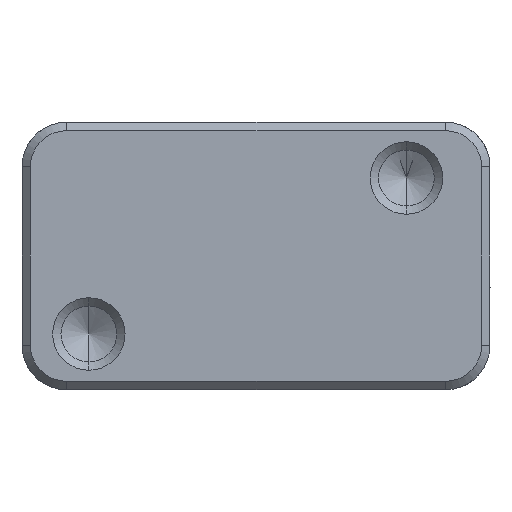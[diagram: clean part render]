
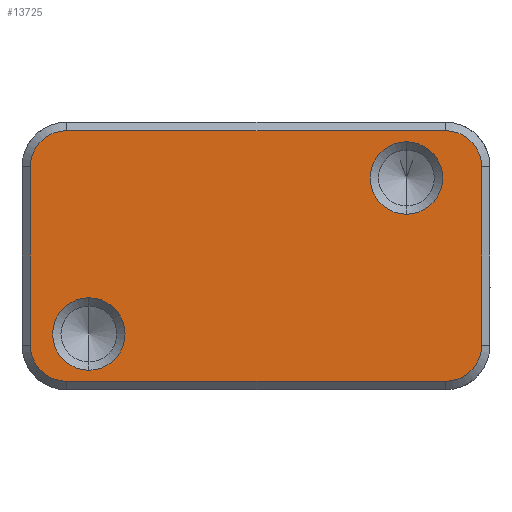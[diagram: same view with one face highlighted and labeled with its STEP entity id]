
A CAD part, front view. The second image highlights one B-rep face of the part: STEP entity #13725.
In plain terms, the highlighted planar face has unit normal (0, -1, 0).
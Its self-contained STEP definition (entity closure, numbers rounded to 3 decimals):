
#91 = ORIENTED_EDGE ( 'NONE', *, *, #1490, .T. ) ;
#145 = CARTESIAN_POINT ( 'NONE',  ( -20.25, 0., 7.995 ) ) ;
#285 = EDGE_LOOP ( 'NONE', ( #8774, #1440 ) ) ;
#322 = CARTESIAN_POINT ( 'NONE',  ( -17., 0., 11.245 ) ) ;
#598 = CARTESIAN_POINT ( 'NONE',  ( 20.25, 0., 7.995 ) ) ;
#716 = DIRECTION ( 'NONE',  ( 0., 1., 0. ) ) ;
#864 = DIRECTION ( 'NONE',  ( 0., 1., 0. ) ) ;
#897 = VERTEX_POINT ( 'NONE', #4951 ) ;
#1099 = CARTESIAN_POINT ( 'NONE',  ( 13.5, 0., 6.995 ) ) ;
#1104 = VERTEX_POINT ( 'NONE', #145 ) ;
#1356 = CIRCLE ( 'NONE', #6773, 3.25 ) ;
#1440 = ORIENTED_EDGE ( 'NONE', *, *, #2316, .T. ) ;
#1490 = EDGE_CURVE ( 'NONE', #6956, #1104, #11891, .T. ) ;
#1772 = LINE ( 'NONE', #2690, #12418 ) ;
#1795 = PLANE ( 'NONE',  #10368 ) ;
#1817 = DIRECTION ( 'NONE',  ( 0., 0., -1. ) ) ;
#1826 = AXIS2_PLACEMENT_3D ( 'NONE', #6650, #2471, #10027 ) ;
#1864 = CARTESIAN_POINT ( 'NONE',  ( 17., 0., -8.006 ) ) ;
#2037 = CARTESIAN_POINT ( 'NONE',  ( -17., 0., 7.995 ) ) ;
#2044 = LINE ( 'NONE', #6355, #10120 ) ;
#2055 = CIRCLE ( 'NONE', #1826, 3.25 ) ;
#2147 = ORIENTED_EDGE ( 'NONE', *, *, #5682, .T. ) ;
#2214 = VERTEX_POINT ( 'NONE', #10671 ) ;
#2316 = EDGE_CURVE ( 'NONE', #897, #4032, #2055, .T. ) ;
#2471 = DIRECTION ( 'NONE',  ( 0., 1., 0. ) ) ;
#2690 = CARTESIAN_POINT ( 'NONE',  ( 20.25, 0., -12.006 ) ) ;
#2780 = DIRECTION ( 'NONE',  ( 0., -1., 0. ) ) ;
#2889 = CIRCLE ( 'NONE', #12136, 3.25 ) ;
#2962 = CIRCLE ( 'NONE', #3425, 3.25 ) ;
#3339 = VERTEX_POINT ( 'NONE', #6388 ) ;
#3369 = CARTESIAN_POINT ( 'NONE',  ( 20.25, 0., -8.006 ) ) ;
#3425 = AXIS2_PLACEMENT_3D ( 'NONE', #11585, #716, #4025 ) ;
#3554 = EDGE_CURVE ( 'NONE', #2214, #12873, #2044, .T. ) ;
#3858 = CARTESIAN_POINT ( 'NONE',  ( 17., 0., 11.245 ) ) ;
#3972 = DIRECTION ( 'NONE',  ( -1., 0., 0. ) ) ;
#4025 = DIRECTION ( 'NONE',  ( 0., 0., -1. ) ) ;
#4032 = VERTEX_POINT ( 'NONE', #9946 ) ;
#4097 = CARTESIAN_POINT ( 'NONE',  ( -15., 0., -7.005 ) ) ;
#4196 = ORIENTED_EDGE ( 'NONE', *, *, #5481, .F. ) ;
#4289 = DIRECTION ( 'NONE',  ( -1., 0., 0. ) ) ;
#4378 = LINE ( 'NONE', #8611, #7064 ) ;
#4483 = DIRECTION ( 'NONE',  ( 0., 1., 0. ) ) ;
#4866 = DIRECTION ( 'NONE',  ( 0., 1., 0. ) ) ;
#4951 = CARTESIAN_POINT ( 'NONE',  ( -15., 0., -3.755 ) ) ;
#5104 = VERTEX_POINT ( 'NONE', #9863 ) ;
#5168 = CARTESIAN_POINT ( 'NONE',  ( -17., 0., -8.006 ) ) ;
#5170 = DIRECTION ( 'NONE',  ( 0., 1., 0. ) ) ;
#5201 = VERTEX_POINT ( 'NONE', #598 ) ;
#5481 = EDGE_CURVE ( 'NONE', #12873, #3339, #12811, .T. ) ;
#5652 = EDGE_LOOP ( 'NONE', ( #8269, #6675 ) ) ;
#5668 = CARTESIAN_POINT ( 'NONE',  ( -17., 0., -11.256 ) ) ;
#5682 = EDGE_CURVE ( 'NONE', #5201, #13389, #2889, .T. ) ;
#5792 = ORIENTED_EDGE ( 'NONE', *, *, #7187, .F. ) ;
#5813 = AXIS2_PLACEMENT_3D ( 'NONE', #2037, #10432, #4289 ) ;
#5847 = CARTESIAN_POINT ( 'NONE',  ( 13.5, 0., 10.245 ) ) ;
#5899 = EDGE_LOOP ( 'NONE', ( #91, #5979, #4196, #6981, #5792, #6902, #2147, #10574 ) ) ;
#5979 = ORIENTED_EDGE ( 'NONE', *, *, #9425, .T. ) ;
#6149 = DIRECTION ( 'NONE',  ( 0., 0., -1. ) ) ;
#6355 = CARTESIAN_POINT ( 'NONE',  ( -21., 0., -11.256 ) ) ;
#6388 = CARTESIAN_POINT ( 'NONE',  ( -20.25, 0., -8.006 ) ) ;
#6650 = CARTESIAN_POINT ( 'NONE',  ( -15., 0., -7.005 ) ) ;
#6675 = ORIENTED_EDGE ( 'NONE', *, *, #9996, .T. ) ;
#6773 = AXIS2_PLACEMENT_3D ( 'NONE', #4097, #4866, #6149 ) ;
#6804 = CIRCLE ( 'NONE', #9267, 3.25 ) ;
#6902 = ORIENTED_EDGE ( 'NONE', *, *, #7526, .T. ) ;
#6956 = VERTEX_POINT ( 'NONE', #322 ) ;
#6981 = ORIENTED_EDGE ( 'NONE', *, *, #3554, .F. ) ;
#6998 = DIRECTION ( 'NONE',  ( 0., 0., 1. ) ) ;
#7064 = VECTOR ( 'NONE', #11723, 1000. ) ;
#7187 = EDGE_CURVE ( 'NONE', #12413, #2214, #6804, .T. ) ;
#7526 = EDGE_CURVE ( 'NONE', #12413, #5201, #1772, .T. ) ;
#7640 = DIRECTION ( 'NONE',  ( 0., -1., 0. ) ) ;
#8150 = FACE_BOUND ( 'NONE', #5652, .T. ) ;
#8269 = ORIENTED_EDGE ( 'NONE', *, *, #9542, .T. ) ;
#8284 = CARTESIAN_POINT ( 'NONE',  ( -21., 0., -12.006 ) ) ;
#8416 = DIRECTION ( 'NONE',  ( 0., 0., 1. ) ) ;
#8438 = CARTESIAN_POINT ( 'NONE',  ( -20.25, 0., -12.006 ) ) ;
#8611 = CARTESIAN_POINT ( 'NONE',  ( -21., 0., 11.245 ) ) ;
#8757 = AXIS2_PLACEMENT_3D ( 'NONE', #5168, #864, #8416 ) ;
#8774 = ORIENTED_EDGE ( 'NONE', *, *, #13886, .T. ) ;
#8789 = DIRECTION ( 'NONE',  ( 0., 0., -1. ) ) ;
#8834 = DIRECTION ( 'NONE',  ( 0., 0., 1. ) ) ;
#9267 = AXIS2_PLACEMENT_3D ( 'NONE', #1864, #5170, #3972 ) ;
#9425 = EDGE_CURVE ( 'NONE', #1104, #3339, #9498, .T. ) ;
#9498 = LINE ( 'NONE', #8438, #11313 ) ;
#9542 = EDGE_CURVE ( 'NONE', #5104, #11446, #13791, .T. ) ;
#9732 = AXIS2_PLACEMENT_3D ( 'NONE', #1099, #4483, #8789 ) ;
#9863 = CARTESIAN_POINT ( 'NONE',  ( 13.5, 0., 3.745 ) ) ;
#9898 = CARTESIAN_POINT ( 'NONE',  ( 17., 0., 7.995 ) ) ;
#9946 = CARTESIAN_POINT ( 'NONE',  ( -15., 0., -10.255 ) ) ;
#9996 = EDGE_CURVE ( 'NONE', #11446, #5104, #2962, .T. ) ;
#10027 = DIRECTION ( 'NONE',  ( 0., 0., -1. ) ) ;
#10120 = VECTOR ( 'NONE', #11775, 1000. ) ;
#10172 = EDGE_CURVE ( 'NONE', #13389, #6956, #4378, .T. ) ;
#10368 = AXIS2_PLACEMENT_3D ( 'NONE', #8284, #2780, #11397 ) ;
#10432 = DIRECTION ( 'NONE',  ( 0., -1., 0. ) ) ;
#10574 = ORIENTED_EDGE ( 'NONE', *, *, #10172, .T. ) ;
#10671 = CARTESIAN_POINT ( 'NONE',  ( 17., 0., -11.256 ) ) ;
#11313 = VECTOR ( 'NONE', #1817, 1000. ) ;
#11397 = DIRECTION ( 'NONE',  ( 1., 0., 0. ) ) ;
#11446 = VERTEX_POINT ( 'NONE', #5847 ) ;
#11460 = FACE_BOUND ( 'NONE', #285, .T. ) ;
#11537 = FACE_OUTER_BOUND ( 'NONE', #5899, .T. ) ;
#11585 = CARTESIAN_POINT ( 'NONE',  ( 13.5, 0., 6.995 ) ) ;
#11723 = DIRECTION ( 'NONE',  ( -1., 0., 0. ) ) ;
#11775 = DIRECTION ( 'NONE',  ( -1., 0., 0. ) ) ;
#11891 = CIRCLE ( 'NONE', #5813, 3.25 ) ;
#12136 = AXIS2_PLACEMENT_3D ( 'NONE', #9898, #7640, #8834 ) ;
#12413 = VERTEX_POINT ( 'NONE', #3369 ) ;
#12418 = VECTOR ( 'NONE', #6998, 1000. ) ;
#12811 = CIRCLE ( 'NONE', #8757, 3.25 ) ;
#12873 = VERTEX_POINT ( 'NONE', #5668 ) ;
#13389 = VERTEX_POINT ( 'NONE', #3858 ) ;
#13725 = ADVANCED_FACE ( 'NONE', ( #8150, #11537, #11460 ), #1795, .T. ) ;
#13791 = CIRCLE ( 'NONE', #9732, 3.25 ) ;
#13886 = EDGE_CURVE ( 'NONE', #4032, #897, #1356, .T. ) ;
